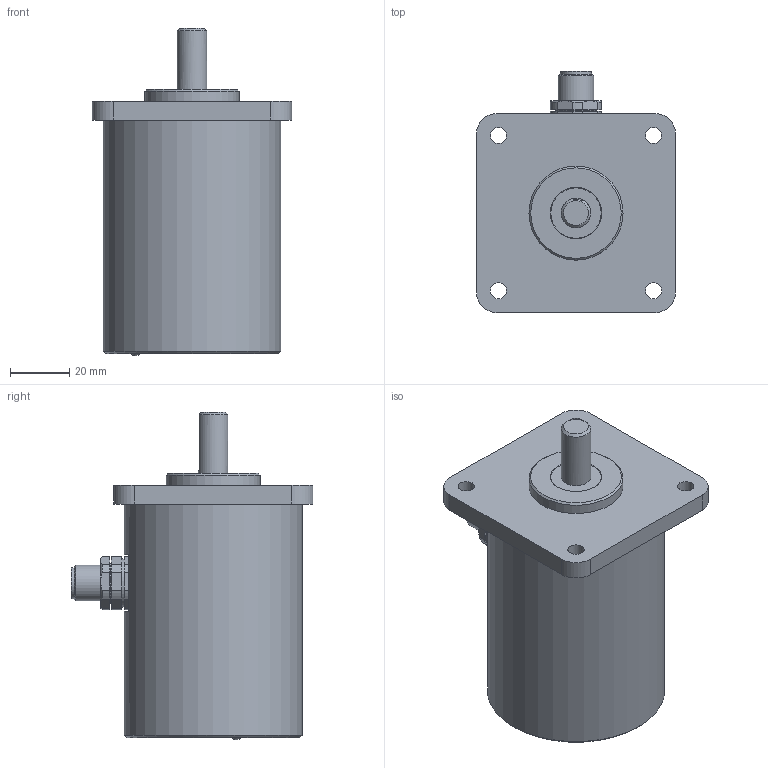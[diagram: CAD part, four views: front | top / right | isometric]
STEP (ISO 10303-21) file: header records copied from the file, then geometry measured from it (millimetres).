
FILE_DESCRIPTION(/* description */ ('Alibre Inc.'),/* implementation_level */ '2;1');
FILE_NAME(/* name */ 'export0',/* time_stamp */ '2016-10-21T14:13:55-04:00',/* author */ (''),/* organization */ (''),/* preprocessor_version */ 'ST-DEVELOPER v14',/* originating_system */ 'Alibre',/* authorisation */ '');
FILE_SCHEMA (('CONFIG_CONTROL_DESIGN'));
Length unit declared in the file: centimetre
Products named in the file (1): ID_1
Bounding box: 67.31 x 81.61 x 110.55 mm (x, y, z)
Volume: 167212.6 mm3; surface area: 46063.2 mm2
Topology: 3 solids, 45 shells, 288 faces, 494 edges, 327 vertices
Faces by surface type: plane 154, cylinder 106, cone 24, bspline 3, torus 1
Full cylindrical faces by diameter (mm): 1.4 x8, 2.87 x2, 3 x37, 5.5 x4, 8.3 x1, 9.9 x2, 10 x3, 10.5 x1, 11.8 x1, 12 x1, 13.5 x2, 14 x1, 15.2 x1, 16.5 x1, 17 x1, 20 x1, 26 x1, 31.75 x1, 40 x1, 46 x1, 55.8 x1, 60 x1
Entity records: 6134 total; most frequent: CARTESIAN_POINT 1130, DIRECTION 991, ORIENTED_EDGE 764, AXIS2_PLACEMENT_3D 496, EDGE_LOOP 429, FACE_BOUND 429, EDGE_CURVE 382, VERTEX_POINT 309
